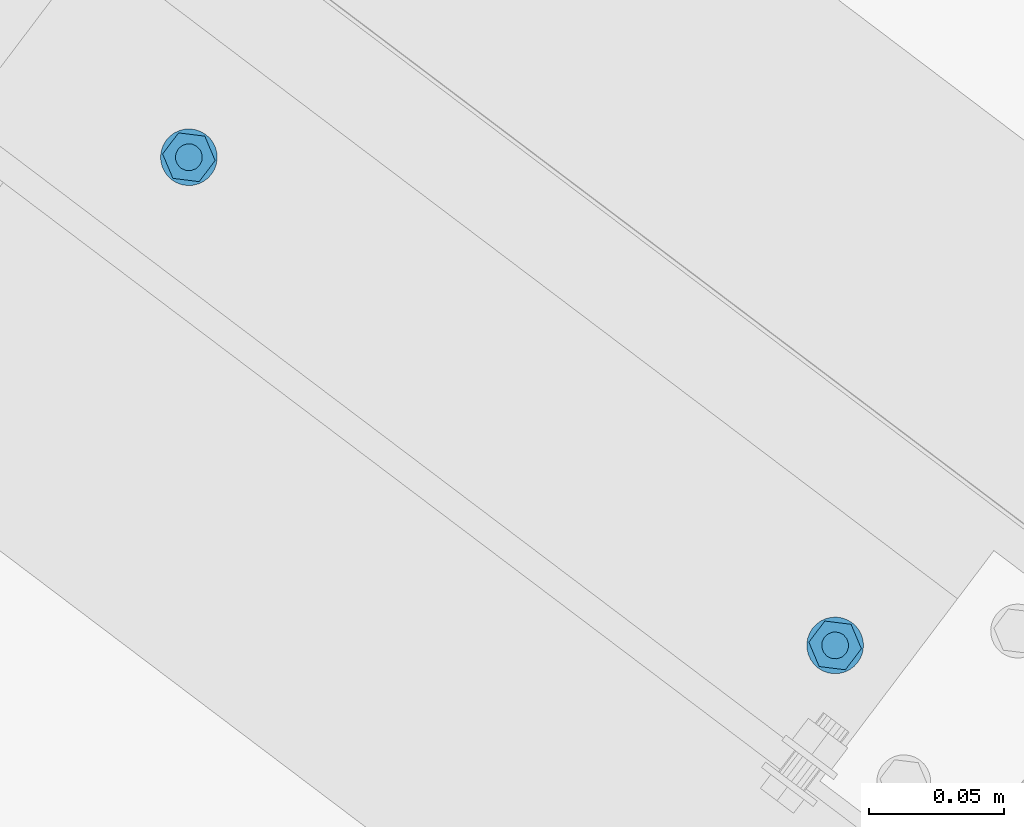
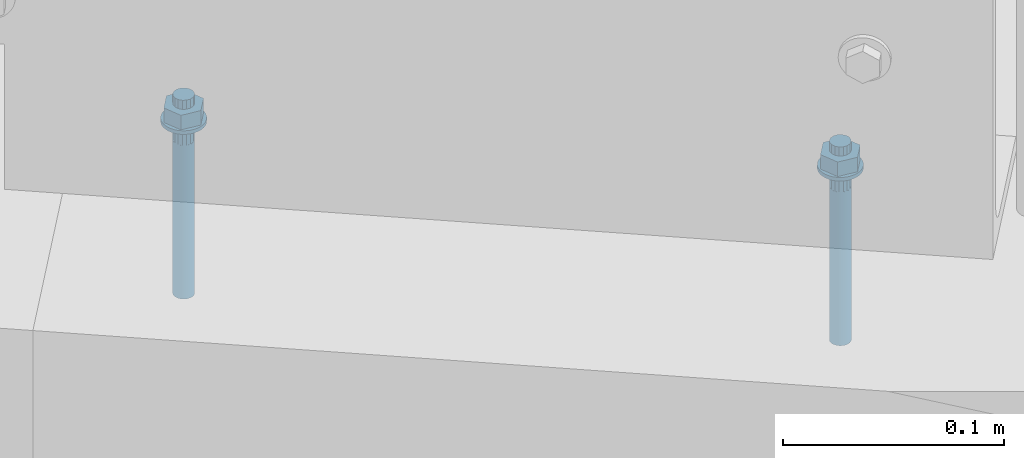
# One storey, part 170 of 476: 1 mechanical fastener.
"""IFC2X3 building model written with IfcOpenShell, lengths in millimetres."""

from ifc_helpers import new_model, entity, si_unit, converted_unit, origin_with_axes, place, context, project, spatial, faceted_brep, element, save


model = new_model("IFC2X3")

# Units and contexts
model_context = context("Model", 3, precision=1e-09, world=origin_with_axes())
ifc_project = project(units=[si_unit("LENGTHUNIT", "METRE", prefix="MILLI"), si_unit("AREAUNIT", "SQUARE_METRE"), si_unit("VOLUMEUNIT", "CUBIC_METRE"), converted_unit("PLANEANGLEUNIT", "DEGREE", entity("IfcPlaneAngleMeasure", 0.01745329), si_unit("PLANEANGLEUNIT", "RADIAN"), dimensions=[0, 0, 0, 0, 0, 0, 0])], contexts=[model_context])

# Site, building, storey
site_placement = place(None, origin_with_axes())
site = spatial("IfcSite", under=ifc_project, at=site_placement, Name="mKR Teilneubau & Sanierung BA1 - Ostfildern", CompositionType="ELEMENT")
building_placement = place(site_placement, origin_with_axes())
building = spatial("IfcBuilding", under=site, at=building_placement, Name="Struktur 1", CompositionType="ELEMENT")
storey_placement = place(building_placement, origin_with_axes())
storey = spatial("IfcBuildingStorey", under=building, at=storey_placement, Name="Default Storey", CompositionType="ELEMENT", Elevation=0.0)

# Mechanical fastener
mechanical_fastener_placement = place(None, origin_with_axes())
element("IfcMechanicalFastener", 1, at=mechanical_fastener_placement, inside=storey, ObjectType="-", NominalDiameter=10.0, NominalLength=110.0, context=model_context, shape_type="Brep", body=[
    faceted_brep([(645.132656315, -288.674070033, 512.0), (645.132656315, -288.674070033, 510.0), (644.058974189, -290.430217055, 510.0), (644.058974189, -290.430217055, 512.0), (643.348529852, -292.362085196, 510.0), (643.348529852, -292.362085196, 512.0), (643.028625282, -294.395433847, 510.0), (643.028625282, -294.395433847, 512.0), (643.111554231, -296.45212256, 510.0), (643.111554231, -296.45212256, 512.0), (643.594129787, -298.45311394, 510.0), (643.594129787, -298.45311394, 512.0), (644.457806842, -300.321511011, 510.0), (644.457806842, -300.321511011, 512.0), (645.66939477, -301.985512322, 510.0), (645.66939477, -301.985512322, 512.0), (647.182332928, -303.381171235, 510.0), (647.182332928, -303.381171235, 512.0), (648.93847995, -304.454853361, 510.0), (648.93847995, -304.454853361, 512.0), (650.870348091, -305.165297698, 510.0), (650.870348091, -305.165297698, 512.0), (652.903696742, -305.485202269, 510.0), (652.903696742, -305.485202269, 512.0), (654.960385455, -305.40227332, 510.0), (654.960385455, -305.40227332, 512.0), (656.961376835, -304.919697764, 510.0), (656.961376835, -304.919697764, 512.0), (658.829773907, -304.056020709, 510.0), (658.829773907, -304.056020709, 512.0), (660.493775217, -302.84443278, 510.0), (660.493775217, -302.84443278, 512.0), (661.88943413, -301.331494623, 510.0), (661.88943413, -301.331494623, 512.0), (662.963116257, -299.5753476, 510.0), (662.963116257, -299.5753476, 512.0), (663.673560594, -297.643479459, 510.0), (663.673560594, -297.643479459, 512.0), (663.993465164, -295.610130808, 510.0), (663.993465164, -295.610130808, 512.0), (663.910536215, -293.553442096, 510.0), (663.910536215, -293.553442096, 512.0), (663.427960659, -291.552450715, 510.0), (663.427960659, -291.552450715, 512.0), (662.564283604, -289.684053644, 510.0), (662.564283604, -289.684053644, 512.0), (661.352695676, -288.020052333, 510.0), (661.352695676, -288.020052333, 512.0), (659.839757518, -286.62439342, 510.0), (659.839757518, -286.62439342, 512.0), (658.083610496, -285.550711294, 510.0), (658.083610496, -285.550711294, 512.0), (656.151742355, -284.840266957, 510.0), (656.151742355, -284.840266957, 512.0), (654.118393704, -284.520362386, 510.0), (654.118393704, -284.520362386, 512.0), (652.061704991, -284.603291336, 510.0), (652.061704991, -284.603291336, 512.0), (650.060713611, -285.085866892, 510.0), (650.060713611, -285.085866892, 512.0), (648.192316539, -285.949543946, 510.0), (648.192316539, -285.949543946, 512.0), (646.528315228, -287.161131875, 510.0), (646.528315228, -287.161131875, 512.0)], [[[0, 1, 2, 3]], [[3, 2, 4, 5]], [[5, 4, 6, 7]], [[7, 6, 8, 9]], [[9, 8, 10, 11]], [[11, 10, 12, 13]], [[13, 12, 14, 15]], [[15, 14, 16, 17]], [[17, 16, 18, 19]], [[19, 18, 20, 21]], [[21, 20, 22, 23]], [[23, 22, 24, 25]], [[25, 24, 26, 27]], [[27, 26, 28, 29]], [[29, 28, 30, 31]], [[31, 30, 32, 33]], [[33, 32, 34, 35]], [[35, 34, 36, 37]], [[37, 36, 38, 39]], [[39, 38, 40, 41]], [[41, 40, 42, 43]], [[43, 42, 44, 45]], [[45, 44, 46, 47]], [[47, 46, 48, 49]], [[49, 48, 50, 51]], [[51, 50, 52, 53]], [[53, 52, 54, 55]], [[55, 54, 56, 57]], [[57, 56, 58, 59]], [[59, 58, 60, 61]], [[61, 60, 62, 63]], [[63, 62, 1, 0]], [[0, 3, 5, 7, 9, 11, 13, 15, 17, 19, 21, 23, 25, 27, 29, 31, 33, 35, 37, 39, 41, 43, 45, 47, 49, 51, 53, 55, 57, 59, 61, 63]], [[1, 62, 60, 58, 56, 54, 52, 50, 48, 46, 44, 42, 40, 38, 36, 34, 32, 30, 28, 26, 24, 22, 20, 18, 16, 14, 12, 10, 8, 6, 4, 2]]]),
    faceted_brep([(405.750116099, -107.853718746, 512.0), (405.750116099, -107.853718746, 510.0), (404.676433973, -109.609865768, 510.0), (404.676433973, -109.609865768, 512.0), (403.965989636, -111.541733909, 510.0), (403.965989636, -111.541733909, 512.0), (403.646085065, -113.57508256, 510.0), (403.646085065, -113.57508256, 512.0), (403.729014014, -115.631771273, 510.0), (403.729014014, -115.631771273, 512.0), (404.21158957, -117.632762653, 510.0), (404.21158957, -117.632762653, 512.0), (405.075266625, -119.501159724, 510.0), (405.075266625, -119.501159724, 512.0), (406.286854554, -121.165161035, 510.0), (406.286854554, -121.165161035, 512.0), (407.799792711, -122.560819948, 510.0), (407.799792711, -122.560819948, 512.0), (409.555939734, -123.634502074, 510.0), (409.555939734, -123.634502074, 512.0), (411.487807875, -124.344946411, 510.0), (411.487807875, -124.344946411, 512.0), (413.521156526, -124.664850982, 510.0), (413.521156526, -124.664850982, 512.0), (415.577845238, -124.581922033, 510.0), (415.577845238, -124.581922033, 512.0), (417.578836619, -124.099346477, 510.0), (417.578836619, -124.099346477, 512.0), (419.44723369, -123.235669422, 510.0), (419.44723369, -123.235669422, 512.0), (421.111235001, -122.024081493, 510.0), (421.111235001, -122.024081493, 512.0), (422.506893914, -120.511143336, 510.0), (422.506893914, -120.511143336, 512.0), (423.58057604, -118.754996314, 510.0), (423.58057604, -118.754996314, 512.0), (424.291020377, -116.823128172, 510.0), (424.291020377, -116.823128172, 512.0), (424.610924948, -114.789779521, 510.0), (424.610924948, -114.789779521, 512.0), (424.527995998, -112.733090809, 510.0), (424.527995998, -112.733090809, 512.0), (424.045420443, -110.732099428, 510.0), (424.045420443, -110.732099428, 512.0), (423.181743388, -108.863702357, 510.0), (423.181743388, -108.863702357, 512.0), (421.970155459, -107.199701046, 510.0), (421.970155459, -107.199701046, 512.0), (420.457217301, -105.804042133, 510.0), (420.457217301, -105.804042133, 512.0), (418.701070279, -104.730360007, 510.0), (418.701070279, -104.730360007, 512.0), (416.769202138, -104.01991567, 510.0), (416.769202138, -104.01991567, 512.0), (414.735853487, -103.700011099, 510.0), (414.735853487, -103.700011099, 512.0), (412.679164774, -103.782940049, 510.0), (412.679164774, -103.782940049, 512.0), (410.678173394, -104.265515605, 510.0), (410.678173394, -104.265515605, 512.0), (408.809776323, -105.129192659, 510.0), (408.809776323, -105.129192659, 512.0), (407.145775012, -106.340780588, 510.0), (407.145775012, -106.340780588, 512.0)], [[[0, 1, 2, 3]], [[3, 2, 4, 5]], [[5, 4, 6, 7]], [[7, 6, 8, 9]], [[9, 8, 10, 11]], [[11, 10, 12, 13]], [[13, 12, 14, 15]], [[15, 14, 16, 17]], [[17, 16, 18, 19]], [[19, 18, 20, 21]], [[21, 20, 22, 23]], [[23, 22, 24, 25]], [[25, 24, 26, 27]], [[27, 26, 28, 29]], [[29, 28, 30, 31]], [[31, 30, 32, 33]], [[33, 32, 34, 35]], [[35, 34, 36, 37]], [[37, 36, 38, 39]], [[39, 38, 40, 41]], [[41, 40, 42, 43]], [[43, 42, 44, 45]], [[45, 44, 46, 47]], [[47, 46, 48, 49]], [[49, 48, 50, 51]], [[51, 50, 52, 53]], [[53, 52, 54, 55]], [[55, 54, 56, 57]], [[57, 56, 58, 59]], [[59, 58, 60, 61]], [[61, 60, 62, 63]], [[63, 62, 1, 0]], [[0, 3, 5, 7, 9, 11, 13, 15, 17, 19, 21, 23, 25, 27, 29, 31, 33, 35, 37, 39, 41, 43, 45, 47, 49, 51, 53, 55, 57, 59, 61, 63]], [[1, 62, 60, 58, 56, 54, 52, 50, 48, 46, 44, 42, 40, 38, 36, 34, 32, 30, 28, 26, 24, 22, 20, 18, 16, 14, 12, 10, 8, 6, 4, 2]]]),
    faceted_brep([(657.32981728, -304.028134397, 512.0), (657.32981728, -304.028134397, 520.0), (647.604247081, -302.822611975, 520.0), (647.604247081, -302.822611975, 512.0), (643.785475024, -293.797259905, 520.0), (643.785475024, -293.797259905, 512.0), (649.692273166, -285.977430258, 520.0), (649.692273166, -285.977430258, 512.0), (659.417843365, -287.18295268, 520.0), (659.417843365, -287.18295268, 512.0), (663.236615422, -296.20830475, 520.0), (663.236615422, -296.20830475, 512.0)], [[[0, 1, 2, 3]], [[3, 2, 4, 5]], [[5, 4, 6, 7]], [[7, 6, 8, 9]], [[9, 8, 10, 11]], [[11, 10, 1, 0]], [[4, 2, 1, 10, 8, 6]], [[0, 3, 5, 7, 9, 11]]]),
    faceted_brep([(417.947277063, -123.20778311, 512.0), (417.947277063, -123.20778311, 520.0), (408.221706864, -122.002260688, 520.0), (408.221706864, -122.002260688, 512.0), (404.402934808, -112.976908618, 520.0), (404.402934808, -112.976908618, 512.0), (410.30973295, -105.157078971, 520.0), (410.30973295, -105.157078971, 512.0), (420.035303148, -106.362601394, 520.0), (420.035303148, -106.362601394, 512.0), (423.854075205, -115.387953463, 520.0), (423.854075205, -115.387953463, 512.0)], [[[0, 1, 2, 3]], [[3, 2, 4, 5]], [[5, 4, 6, 7]], [[7, 6, 8, 9]], [[9, 8, 10, 11]], [[11, 10, 1, 0]], [[4, 2, 1, 10, 8, 6]], [[0, 3, 5, 7, 9, 11]]]),
    faceted_brep([(649.521336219, -291.989109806, 525.0), (649.521336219, -291.989109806, 520.0), (648.671752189, -293.745307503, 520.0), (648.671752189, -293.745307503, 525.0), (648.558906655, -295.692944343, 520.0), (648.558906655, -295.692944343, 525.0), (649.199979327, -297.535510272, 520.0), (649.199979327, -297.535510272, 525.0), (650.497372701, -298.992491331, 520.0), (650.497372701, -298.992491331, 525.0), (652.253570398, -299.842075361, 520.0), (652.253570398, -299.842075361, 525.0), (654.201207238, -299.954920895, 520.0), (654.201207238, -299.954920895, 525.0), (656.043773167, -299.313848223, 520.0), (656.043773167, -299.313848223, 525.0), (657.500754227, -298.016454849, 520.0), (657.500754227, -298.016454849, 525.0), (658.350338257, -296.260257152, 520.0), (658.350338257, -296.260257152, 525.0), (658.463183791, -294.312620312, 520.0), (658.463183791, -294.312620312, 525.0), (657.822111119, -292.470054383, 520.0), (657.822111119, -292.470054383, 525.0), (656.524717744, -291.013073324, 520.0), (656.524717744, -291.013073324, 525.0), (654.768520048, -290.163489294, 520.0), (654.768520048, -290.163489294, 525.0), (652.820883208, -290.05064376, 520.0), (652.820883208, -290.05064376, 525.0), (650.978317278, -290.691716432, 520.0), (650.978317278, -290.691716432, 525.0)], [[[0, 1, 2, 3]], [[3, 2, 4, 5]], [[5, 4, 6, 7]], [[7, 6, 8, 9]], [[9, 8, 10, 11]], [[11, 10, 12, 13]], [[13, 12, 14, 15]], [[15, 14, 16, 17]], [[17, 16, 18, 19]], [[19, 18, 20, 21]], [[21, 20, 22, 23]], [[23, 22, 24, 25]], [[25, 24, 26, 27]], [[27, 26, 28, 29]], [[29, 28, 30, 31]], [[31, 30, 1, 0]], [[0, 3, 5, 7, 9, 11, 13, 15, 17, 19, 21, 23, 25, 27, 29, 31]], [[1, 30, 28, 26, 24, 22, 20, 18, 16, 14, 12, 10, 8, 6, 4, 2]]]),
    faceted_brep([(410.138796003, -111.168758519, 525.0), (410.138796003, -111.168758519, 520.0), (409.289211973, -112.924956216, 520.0), (409.289211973, -112.924956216, 525.0), (409.176366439, -114.872593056, 520.0), (409.176366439, -114.872593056, 525.0), (409.817439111, -116.715158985, 520.0), (409.817439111, -116.715158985, 525.0), (411.114832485, -118.172140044, 520.0), (411.114832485, -118.172140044, 525.0), (412.871030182, -119.021724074, 520.0), (412.871030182, -119.021724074, 525.0), (414.818667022, -119.134569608, 520.0), (414.818667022, -119.134569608, 525.0), (416.661232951, -118.493496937, 520.0), (416.661232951, -118.493496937, 525.0), (418.11821401, -117.196103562, 520.0), (418.11821401, -117.196103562, 525.0), (418.96779804, -115.439905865, 520.0), (418.96779804, -115.439905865, 525.0), (419.080643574, -113.492269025, 520.0), (419.080643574, -113.492269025, 525.0), (418.439570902, -111.649703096, 520.0), (418.439570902, -111.649703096, 525.0), (417.142177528, -110.192722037, 520.0), (417.142177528, -110.192722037, 525.0), (415.385979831, -109.343138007, 520.0), (415.385979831, -109.343138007, 525.0), (413.438342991, -109.230292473, 520.0), (413.438342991, -109.230292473, 525.0), (411.595777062, -109.871365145, 520.0), (411.595777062, -109.871365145, 525.0)], [[[0, 1, 2, 3]], [[3, 2, 4, 5]], [[5, 4, 6, 7]], [[7, 6, 8, 9]], [[9, 8, 10, 11]], [[11, 10, 12, 13]], [[13, 12, 14, 15]], [[15, 14, 16, 17]], [[17, 16, 18, 19]], [[19, 18, 20, 21]], [[21, 20, 22, 23]], [[23, 22, 24, 25]], [[25, 24, 26, 27]], [[27, 26, 28, 29]], [[29, 28, 30, 31]], [[31, 30, 1, 0]], [[0, 3, 5, 7, 9, 11, 13, 15, 17, 19, 21, 23, 25, 27, 29, 31]], [[1, 30, 28, 26, 24, 22, 20, 18, 16, 14, 12, 10, 8, 6, 4, 2]]]),
    faceted_brep([(649.521336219, -291.989109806, 510.0), (649.521336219, -291.989109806, 500.0), (648.671752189, -293.745307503, 500.0), (648.671752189, -293.745307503, 510.0), (648.558906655, -295.692944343, 500.0), (648.558906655, -295.692944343, 510.0), (649.199979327, -297.535510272, 500.0), (649.199979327, -297.535510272, 510.0), (650.497372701, -298.992491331, 500.0), (650.497372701, -298.992491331, 510.0), (652.253570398, -299.842075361, 500.0), (652.253570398, -299.842075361, 510.0), (654.201207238, -299.954920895, 500.0), (654.201207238, -299.954920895, 510.0), (656.043773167, -299.313848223, 500.0), (656.043773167, -299.313848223, 510.0), (657.500754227, -298.016454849, 500.0), (657.500754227, -298.016454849, 510.0), (658.350338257, -296.260257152, 500.0), (658.350338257, -296.260257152, 510.0), (658.463183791, -294.312620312, 500.0), (658.463183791, -294.312620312, 510.0), (657.822111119, -292.470054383, 500.0), (657.822111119, -292.470054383, 510.0), (656.524717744, -291.013073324, 500.0), (656.524717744, -291.013073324, 510.0), (654.768520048, -290.163489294, 500.0), (654.768520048, -290.163489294, 510.0), (652.820883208, -290.05064376, 500.0), (652.820883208, -290.05064376, 510.0), (650.978317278, -290.691716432, 500.0), (650.978317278, -290.691716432, 510.0)], [[[0, 1, 2, 3]], [[3, 2, 4, 5]], [[5, 4, 6, 7]], [[7, 6, 8, 9]], [[9, 8, 10, 11]], [[11, 10, 12, 13]], [[13, 12, 14, 15]], [[15, 14, 16, 17]], [[17, 16, 18, 19]], [[19, 18, 20, 21]], [[21, 20, 22, 23]], [[23, 22, 24, 25]], [[25, 24, 26, 27]], [[27, 26, 28, 29]], [[29, 28, 30, 31]], [[31, 30, 1, 0]], [[0, 3, 5, 7, 9, 11, 13, 15, 17, 19, 21, 23, 25, 27, 29, 31]], [[1, 30, 28, 26, 24, 22, 20, 18, 16, 14, 12, 10, 8, 6, 4, 2]]]),
    faceted_brep([(410.138796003, -111.168758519, 510.0), (410.138796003, -111.168758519, 500.0), (409.289211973, -112.924956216, 500.0), (409.289211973, -112.924956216, 510.0), (409.176366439, -114.872593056, 500.0), (409.176366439, -114.872593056, 510.0), (409.817439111, -116.715158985, 500.0), (409.817439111, -116.715158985, 510.0), (411.114832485, -118.172140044, 500.0), (411.114832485, -118.172140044, 510.0), (412.871030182, -119.021724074, 500.0), (412.871030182, -119.021724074, 510.0), (414.818667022, -119.134569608, 500.0), (414.818667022, -119.134569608, 510.0), (416.661232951, -118.493496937, 500.0), (416.661232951, -118.493496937, 510.0), (418.11821401, -117.196103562, 500.0), (418.11821401, -117.196103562, 510.0), (418.96779804, -115.439905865, 500.0), (418.96779804, -115.439905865, 510.0), (419.080643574, -113.492269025, 500.0), (419.080643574, -113.492269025, 510.0), (418.439570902, -111.649703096, 500.0), (418.439570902, -111.649703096, 510.0), (417.142177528, -110.192722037, 500.0), (417.142177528, -110.192722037, 510.0), (415.385979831, -109.343138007, 500.0), (415.385979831, -109.343138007, 510.0), (413.438342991, -109.230292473, 500.0), (413.438342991, -109.230292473, 510.0), (411.595777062, -109.871365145, 500.0), (411.595777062, -109.871365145, 510.0)], [[[0, 1, 2, 3]], [[3, 2, 4, 5]], [[5, 4, 6, 7]], [[7, 6, 8, 9]], [[9, 8, 10, 11]], [[11, 10, 12, 13]], [[13, 12, 14, 15]], [[15, 14, 16, 17]], [[17, 16, 18, 19]], [[19, 18, 20, 21]], [[21, 20, 22, 23]], [[23, 22, 24, 25]], [[25, 24, 26, 27]], [[27, 26, 28, 29]], [[29, 28, 30, 31]], [[31, 30, 1, 0]], [[0, 3, 5, 7, 9, 11, 13, 15, 17, 19, 21, 23, 25, 27, 29, 31]], [[1, 30, 28, 26, 24, 22, 20, 18, 16, 14, 12, 10, 8, 6, 4, 2]]]),
    faceted_brep([(649.521336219, -291.989109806, 500.0), (649.521336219, -291.989109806, 415.0), (649.010059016, -292.825370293, 415.0), (649.010059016, -292.825370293, 500.0), (648.671752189, -293.745307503, 415.0), (648.671752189, -293.745307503, 500.0), (648.519416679, -294.713568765, 415.0), (648.519416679, -294.713568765, 500.0), (648.558906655, -295.692944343, 415.0), (648.558906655, -295.692944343, 500.0), (648.788704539, -296.645797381, 415.0), (648.788704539, -296.645797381, 500.0), (649.199979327, -297.535510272, 415.0), (649.199979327, -297.535510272, 500.0), (649.77692596, -298.327891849, 415.0), (649.77692596, -298.327891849, 500.0), (650.497372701, -298.992491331, 415.0), (650.497372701, -298.992491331, 500.0), (651.333633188, -299.503768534, 415.0), (651.333633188, -299.503768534, 500.0), (652.253570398, -299.842075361, 415.0), (652.253570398, -299.842075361, 500.0), (653.221831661, -299.994410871, 415.0), (653.221831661, -299.994410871, 500.0), (654.201207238, -299.954920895, 415.0), (654.201207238, -299.954920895, 500.0), (655.154060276, -299.725123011, 415.0), (655.154060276, -299.725123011, 500.0), (656.043773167, -299.313848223, 415.0), (656.043773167, -299.313848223, 500.0), (656.836154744, -298.736901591, 415.0), (656.836154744, -298.736901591, 500.0), (657.500754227, -298.016454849, 415.0), (657.500754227, -298.016454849, 500.0), (658.012031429, -297.180194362, 415.0), (658.012031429, -297.180194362, 500.0), (658.350338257, -296.260257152, 415.0), (658.350338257, -296.260257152, 500.0), (658.502673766, -295.29199589, 415.0), (658.502673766, -295.29199589, 500.0), (658.463183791, -294.312620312, 415.0), (658.463183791, -294.312620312, 500.0), (658.233385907, -293.359767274, 415.0), (658.233385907, -293.359767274, 500.0), (657.822111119, -292.470054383, 415.0), (657.822111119, -292.470054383, 500.0), (657.245164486, -291.677672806, 415.0), (657.245164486, -291.677672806, 500.0), (656.524717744, -291.013073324, 415.0), (656.524717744, -291.013073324, 500.0), (655.688457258, -290.501796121, 415.0), (655.688457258, -290.501796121, 500.0), (654.768520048, -290.163489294, 415.0), (654.768520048, -290.163489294, 500.0), (653.800258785, -290.011153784, 415.0), (653.800258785, -290.011153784, 500.0), (652.820883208, -290.05064376, 415.0), (652.820883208, -290.05064376, 500.0), (651.868030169, -290.280441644, 415.0), (651.868030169, -290.280441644, 500.0), (650.978317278, -290.691716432, 415.0), (650.978317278, -290.691716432, 500.0), (650.185935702, -291.268663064, 415.0), (650.185935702, -291.268663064, 500.0)], [[[0, 1, 2, 3]], [[3, 2, 4, 5]], [[5, 4, 6, 7]], [[7, 6, 8, 9]], [[9, 8, 10, 11]], [[11, 10, 12, 13]], [[13, 12, 14, 15]], [[15, 14, 16, 17]], [[17, 16, 18, 19]], [[19, 18, 20, 21]], [[21, 20, 22, 23]], [[23, 22, 24, 25]], [[25, 24, 26, 27]], [[27, 26, 28, 29]], [[29, 28, 30, 31]], [[31, 30, 32, 33]], [[33, 32, 34, 35]], [[35, 34, 36, 37]], [[37, 36, 38, 39]], [[39, 38, 40, 41]], [[41, 40, 42, 43]], [[43, 42, 44, 45]], [[45, 44, 46, 47]], [[47, 46, 48, 49]], [[49, 48, 50, 51]], [[51, 50, 52, 53]], [[53, 52, 54, 55]], [[55, 54, 56, 57]], [[57, 56, 58, 59]], [[59, 58, 60, 61]], [[61, 60, 62, 63]], [[63, 62, 1, 0]], [[0, 3, 5, 7, 9, 11, 13, 15, 17, 19, 21, 23, 25, 27, 29, 31, 33, 35, 37, 39, 41, 43, 45, 47, 49, 51, 53, 55, 57, 59, 61, 63]], [[1, 62, 60, 58, 56, 54, 52, 50, 48, 46, 44, 42, 40, 38, 36, 34, 32, 30, 28, 26, 24, 22, 20, 18, 16, 14, 12, 10, 8, 6, 4, 2]]]),
    faceted_brep([(410.138796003, -111.168758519, 500.0), (410.138796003, -111.168758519, 415.0), (409.6275188, -112.005019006, 415.0), (409.6275188, -112.005019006, 500.0), (409.289211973, -112.924956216, 415.0), (409.289211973, -112.924956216, 500.0), (409.136876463, -113.893217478, 415.0), (409.136876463, -113.893217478, 500.0), (409.176366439, -114.872593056, 415.0), (409.176366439, -114.872593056, 500.0), (409.406164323, -115.825446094, 415.0), (409.406164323, -115.825446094, 500.0), (409.817439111, -116.715158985, 415.0), (409.817439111, -116.715158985, 500.0), (410.394385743, -117.507540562, 415.0), (410.394385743, -117.507540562, 500.0), (411.114832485, -118.172140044, 415.0), (411.114832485, -118.172140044, 500.0), (411.951092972, -118.683417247, 415.0), (411.951092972, -118.683417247, 500.0), (412.871030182, -119.021724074, 415.0), (412.871030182, -119.021724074, 500.0), (413.839291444, -119.174059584, 415.0), (413.839291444, -119.174059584, 500.0), (414.818667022, -119.134569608, 415.0), (414.818667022, -119.134569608, 500.0), (415.77152006, -118.904771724, 415.0), (415.77152006, -118.904771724, 500.0), (416.661232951, -118.493496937, 415.0), (416.661232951, -118.493496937, 500.0), (417.453614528, -117.916550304, 415.0), (417.453614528, -117.916550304, 500.0), (418.11821401, -117.196103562, 415.0), (418.11821401, -117.196103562, 500.0), (418.629491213, -116.359843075, 415.0), (418.629491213, -116.359843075, 500.0), (418.96779804, -115.439905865, 415.0), (418.96779804, -115.439905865, 500.0), (419.12013355, -114.471644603, 415.0), (419.12013355, -114.471644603, 500.0), (419.080643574, -113.492269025, 415.0), (419.080643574, -113.492269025, 500.0), (418.85084569, -112.539415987, 415.0), (418.85084569, -112.539415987, 500.0), (418.439570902, -111.649703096, 415.0), (418.439570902, -111.649703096, 500.0), (417.86262427, -110.857321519, 415.0), (417.86262427, -110.857321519, 500.0), (417.142177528, -110.192722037, 415.0), (417.142177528, -110.192722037, 500.0), (416.305917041, -109.681444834, 415.0), (416.305917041, -109.681444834, 500.0), (415.385979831, -109.343138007, 415.0), (415.385979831, -109.343138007, 500.0), (414.417718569, -109.190802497, 415.0), (414.417718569, -109.190802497, 500.0), (413.438342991, -109.230292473, 415.0), (413.438342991, -109.230292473, 500.0), (412.485489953, -109.460090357, 415.0), (412.485489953, -109.460090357, 500.0), (411.595777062, -109.871365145, 415.0), (411.595777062, -109.871365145, 500.0), (410.803395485, -110.448311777, 415.0), (410.803395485, -110.448311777, 500.0)], [[[0, 1, 2, 3]], [[3, 2, 4, 5]], [[5, 4, 6, 7]], [[7, 6, 8, 9]], [[9, 8, 10, 11]], [[11, 10, 12, 13]], [[13, 12, 14, 15]], [[15, 14, 16, 17]], [[17, 16, 18, 19]], [[19, 18, 20, 21]], [[21, 20, 22, 23]], [[23, 22, 24, 25]], [[25, 24, 26, 27]], [[27, 26, 28, 29]], [[29, 28, 30, 31]], [[31, 30, 32, 33]], [[33, 32, 34, 35]], [[35, 34, 36, 37]], [[37, 36, 38, 39]], [[39, 38, 40, 41]], [[41, 40, 42, 43]], [[43, 42, 44, 45]], [[45, 44, 46, 47]], [[47, 46, 48, 49]], [[49, 48, 50, 51]], [[51, 50, 52, 53]], [[53, 52, 54, 55]], [[55, 54, 56, 57]], [[57, 56, 58, 59]], [[59, 58, 60, 61]], [[61, 60, 62, 63]], [[63, 62, 1, 0]], [[0, 3, 5, 7, 9, 11, 13, 15, 17, 19, 21, 23, 25, 27, 29, 31, 33, 35, 37, 39, 41, 43, 45, 47, 49, 51, 53, 55, 57, 59, 61, 63]], [[1, 62, 60, 58, 56, 54, 52, 50, 48, 46, 44, 42, 40, 38, 36, 34, 32, 30, 28, 26, 24, 22, 20, 18, 16, 14, 12, 10, 8, 6, 4, 2]]]),
])

save(model, "model.ifc")
